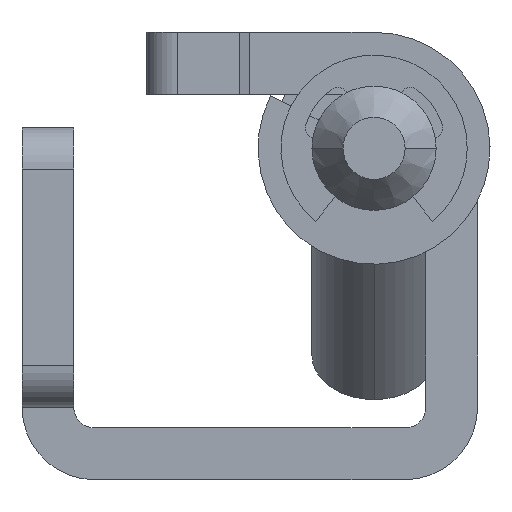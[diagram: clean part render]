
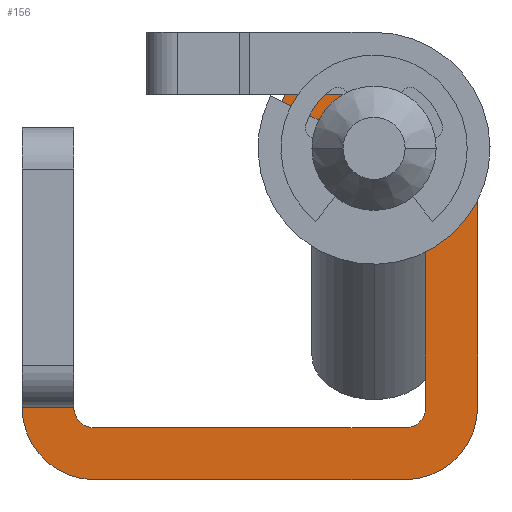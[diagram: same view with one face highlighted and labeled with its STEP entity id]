
A CAD part, front view. The second image highlights one B-rep face of the part: STEP entity #156.
In plain terms, the highlighted planar face has unit normal (0, -1, 0).
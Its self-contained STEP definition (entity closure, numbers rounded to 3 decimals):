
#21=B_SPLINE_CURVE_WITH_KNOTS('',1,(#2575,#2576),.UNSPECIFIED.,.F.,.F.,
(2,2),(-151.46,-148.96),.UNSPECIFIED.);
#25=B_SPLINE_CURVE_WITH_KNOTS('',1,(#2591,#2592),.UNSPECIFIED.,.F.,.F.,
(2,2),(-135.918,-125.371),.UNSPECIFIED.);
#28=B_SPLINE_CURVE_WITH_KNOTS('',1,(#2605,#2606),.UNSPECIFIED.,.F.,.F.,
(2,2),(-119.874,-108.283),.UNSPECIFIED.);
#31=B_SPLINE_CURVE_WITH_KNOTS('',1,(#2625,#2626),.UNSPECIFIED.,.F.,.F.,
(2,2),(-73.699,-58.699),.UNSPECIFIED.);
#34=B_SPLINE_CURVE_WITH_KNOTS('',1,(#2639,#2640),.UNSPECIFIED.,.F.,.F.,
(2,2),(-57.129,-44.629),.UNSPECIFIED.);
#37=B_SPLINE_CURVE_WITH_KNOTS('',1,(#2651,#2652),.UNSPECIFIED.,.F.,.F.,
(2,2),(15.708,18.208),.UNSPECIFIED.);
#156=ADVANCED_FACE('',(#248),#1485,.T.);
#248=FACE_OUTER_BOUND('',#348,.T.);
#348=EDGE_LOOP('',(#580,#581,#582,#583,#584,#585,#586,#587,#588,#589,#590,
#591));
#580=ORIENTED_EDGE('',*,*,#940,.T.);
#581=ORIENTED_EDGE('',*,*,#924,.F.);
#582=ORIENTED_EDGE('',*,*,#921,.F.);
#583=ORIENTED_EDGE('',*,*,#918,.F.);
#584=ORIENTED_EDGE('',*,*,#915,.F.);
#585=ORIENTED_EDGE('',*,*,#912,.F.);
#586=ORIENTED_EDGE('',*,*,#908,.F.);
#587=ORIENTED_EDGE('',*,*,#938,.F.);
#588=ORIENTED_EDGE('',*,*,#935,.F.);
#589=ORIENTED_EDGE('',*,*,#932,.F.);
#590=ORIENTED_EDGE('',*,*,#929,.F.);
#591=ORIENTED_EDGE('',*,*,#926,.F.);
#908=EDGE_CURVE('',#1348,#1349,#21,.T.);
#912=EDGE_CURVE('',#1349,#1352,#1108,.T.);
#915=EDGE_CURVE('',#1352,#1354,#25,.T.);
#918=EDGE_CURVE('',#1354,#1356,#1110,.T.);
#921=EDGE_CURVE('',#1356,#1358,#28,.T.);
#924=EDGE_CURVE('',#1358,#1368,#1112,.T.);
#926=EDGE_CURVE('',#1370,#1360,#1114,.T.);
#929=EDGE_CURVE('',#1360,#1362,#31,.T.);
#932=EDGE_CURVE('',#1362,#1364,#1116,.T.);
#935=EDGE_CURVE('',#1364,#1366,#34,.T.);
#938=EDGE_CURVE('',#1366,#1348,#1118,.T.);
#940=EDGE_CURVE('',#1370,#1368,#37,.T.);
#1108=TRIMMED_CURVE($,#1206,(#2584),(#2585),.T.,.CARTESIAN.);
#1110=TRIMMED_CURVE($,#1208,(#2598),(#2599),.T.,.CARTESIAN.);
#1112=TRIMMED_CURVE($,#1210,(#2612),(#2613),.T.,.CARTESIAN.);
#1114=TRIMMED_CURVE($,#1212,(#2618),(#2619),.T.,.CARTESIAN.);
#1116=TRIMMED_CURVE($,#1214,(#2632),(#2633),.T.,.CARTESIAN.);
#1118=TRIMMED_CURVE($,#1216,(#2646),(#2647),.T.,.CARTESIAN.);
#1206=CIRCLE('',#1717,5.);
#1208=CIRCLE('',#1719,3.5);
#1210=CIRCLE('',#1721,3.5);
#1212=CIRCLE('',#1723,1.);
#1214=CIRCLE('',#1725,1.);
#1216=CIRCLE('',#1727,2.5);
#1348=VERTEX_POINT('',#2503);
#1349=VERTEX_POINT('',#2504);
#1352=VERTEX_POINT('',#2507);
#1354=VERTEX_POINT('',#2509);
#1356=VERTEX_POINT('',#2511);
#1358=VERTEX_POINT('',#2513);
#1360=VERTEX_POINT('',#2515);
#1362=VERTEX_POINT('',#2517);
#1364=VERTEX_POINT('',#2519);
#1366=VERTEX_POINT('',#2521);
#1368=VERTEX_POINT('',#2523);
#1370=VERTEX_POINT('',#2525);
#1485=PLANE('',#1715);
#1715=AXIS2_PLACEMENT_3D('',#2501,#1924,$);
#1717=AXIS2_PLACEMENT_3D($,#2583,#1926,#1927);
#1719=AXIS2_PLACEMENT_3D($,#2597,#1930,#1931);
#1721=AXIS2_PLACEMENT_3D($,#2611,#1934,#1935);
#1723=AXIS2_PLACEMENT_3D($,#2617,#1938,#1939);
#1725=AXIS2_PLACEMENT_3D($,#2631,#1942,#1943);
#1727=AXIS2_PLACEMENT_3D($,#2645,#1946,#1947);
#1924=DIRECTION('',(0.,-1.,0.));
#1926=DIRECTION('',(0.,1.,0.));
#1927=DIRECTION('',(0.483,0.,-0.875));
#1930=DIRECTION('',(0.,1.,0.));
#1931=DIRECTION('',(1.,0.,0.));
#1934=DIRECTION('',(0.,1.,0.));
#1935=DIRECTION('',(0.,0.,-1.));
#1938=DIRECTION('',(0.,-1.,0.));
#1939=DIRECTION('',(-1.,0.,0.));
#1942=DIRECTION('',(0.,-1.,0.));
#1943=DIRECTION('',(0.,0.,-1.));
#1946=DIRECTION('',(0.,-1.,0.));
#1947=DIRECTION('',(1.,0.,0.));
#2501=CARTESIAN_POINT('',(-3.136,-17.7,-25.721));
#2503=CARTESIAN_POINT('',(-9.677,-17.7,-9.284));
#2504=CARTESIAN_POINT('',(-8.469,-17.7,-11.473));
#2507=CARTESIAN_POINT('',(-5.886,-17.7,-7.096));
#2509=CARTESIAN_POINT('',(-5.886,-17.7,-19.596));
#2511=CARTESIAN_POINT('',(-9.386,-17.7,-23.096));
#2513=CARTESIAN_POINT('',(-24.386,-17.7,-23.096));
#2515=CARTESIAN_POINT('',(-24.386,-17.7,-20.596));
#2517=CARTESIAN_POINT('',(-9.386,-17.7,-20.596));
#2519=CARTESIAN_POINT('',(-8.386,-17.7,-19.596));
#2521=CARTESIAN_POINT('',(-8.386,-17.7,-7.096));
#2523=CARTESIAN_POINT('',(-27.886,-17.7,-19.596));
#2525=CARTESIAN_POINT('',(-25.386,-17.7,-19.596));
#2575=CARTESIAN_POINT('',(-9.677,-17.7,-9.284));
#2576=CARTESIAN_POINT('',(-8.469,-17.7,-11.473));
#2583=CARTESIAN_POINT('',(-10.886,-17.7,-7.096));
#2584=CARTESIAN_POINT('',(-8.469,-17.7,-11.473));
#2585=CARTESIAN_POINT('',(-5.886,-17.7,-7.096));
#2591=CARTESIAN_POINT('',(-5.886,-17.7,-7.096));
#2592=CARTESIAN_POINT('',(-5.886,-17.7,-19.596));
#2597=CARTESIAN_POINT('',(-9.386,-17.7,-19.596));
#2598=CARTESIAN_POINT('',(-5.886,-17.7,-19.596));
#2599=CARTESIAN_POINT('',(-9.386,-17.7,-23.096));
#2605=CARTESIAN_POINT('',(-9.386,-17.7,-23.096));
#2606=CARTESIAN_POINT('',(-24.386,-17.7,-23.096));
#2611=CARTESIAN_POINT('',(-24.386,-17.7,-19.596));
#2612=CARTESIAN_POINT('',(-24.386,-17.7,-23.096));
#2613=CARTESIAN_POINT('',(-27.886,-17.7,-19.596));
#2617=CARTESIAN_POINT('',(-24.386,-17.7,-19.596));
#2618=CARTESIAN_POINT('',(-25.386,-17.7,-19.596));
#2619=CARTESIAN_POINT('',(-24.386,-17.7,-20.596));
#2625=CARTESIAN_POINT('',(-24.386,-17.7,-20.596));
#2626=CARTESIAN_POINT('',(-9.386,-17.7,-20.596));
#2631=CARTESIAN_POINT('',(-9.386,-17.7,-19.596));
#2632=CARTESIAN_POINT('',(-9.386,-17.7,-20.596));
#2633=CARTESIAN_POINT('',(-8.386,-17.7,-19.596));
#2639=CARTESIAN_POINT('',(-8.386,-17.7,-19.596));
#2640=CARTESIAN_POINT('',(-8.386,-17.7,-7.096));
#2645=CARTESIAN_POINT('',(-10.886,-17.7,-7.096));
#2646=CARTESIAN_POINT('',(-8.386,-17.7,-7.096));
#2647=CARTESIAN_POINT('',(-9.677,-17.7,-9.284));
#2651=CARTESIAN_POINT('',(-25.386,-17.7,-19.596));
#2652=CARTESIAN_POINT('',(-27.886,-17.7,-19.596));
